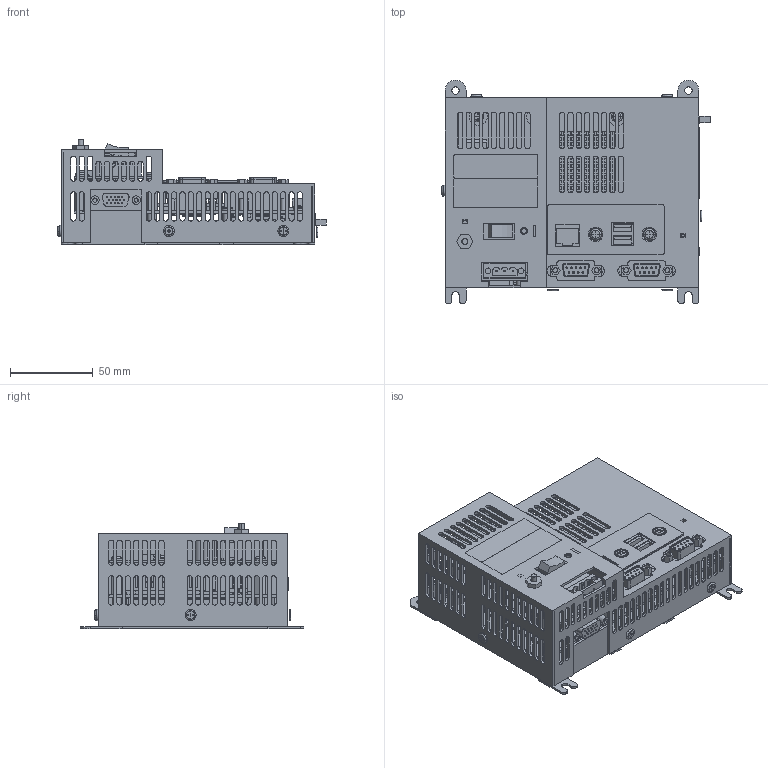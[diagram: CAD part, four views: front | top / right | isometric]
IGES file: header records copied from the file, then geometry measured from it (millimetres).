
Start section:  PTC IGES file: XP 00 Models.igs
Global section: file name: XP 00 Models.igs; native system: Pro/ENGINEER by Parametric Technology Corporation; preprocessor: 2004130; author: srollman; organization: Unknown; date: 070611.152151; units: inch
Bounding box: 162.26 x 135.5 x 63.88 mm (x, y, z)
Surface area: 214926.2 mm2 (no closed solid volume)
Topology: 0 solids, 0 shells, 2163 faces, 13547 edges, 13547 vertices
Faces by surface type: bspline 1569, revolution 594
